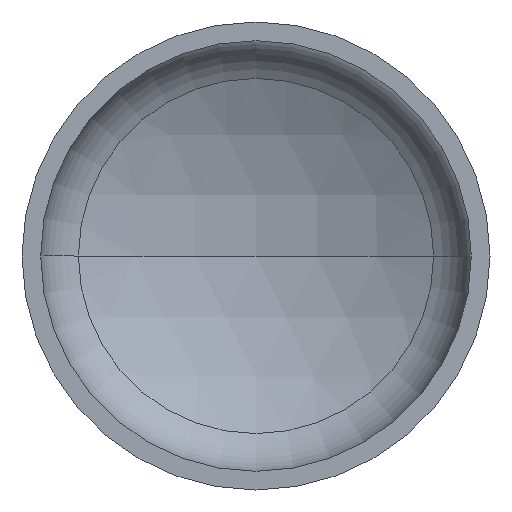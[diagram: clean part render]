
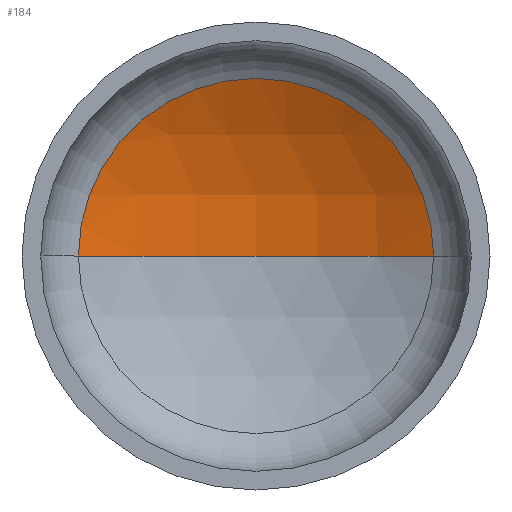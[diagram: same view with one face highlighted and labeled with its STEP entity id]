
A CAD part, front view. The second image highlights one B-rep face of the part: STEP entity #184.
In plain terms, the highlighted spherical face has radius 1200 mm.
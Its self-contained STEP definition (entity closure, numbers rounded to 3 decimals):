
#2 = VERTEX_POINT ( 'NONE', #231 ) ;
#4 = DIRECTION ( 'NONE',  ( -1., 0., 0. ) ) ;
#14 = CARTESIAN_POINT ( 'NONE',  ( 0., -733.991, 0. ) ) ;
#18 = AXIS2_PLACEMENT_3D ( 'NONE', #357, #360, #260 ) ;
#19 = AXIS2_PLACEMENT_3D ( 'NONE', #199, #156, #278 ) ;
#27 = EDGE_LOOP ( 'NONE', ( #142, #108, #182 ) ) ;
#45 = AXIS2_PLACEMENT_3D ( 'NONE', #14, #401, #4 ) ;
#60 = VERTEX_POINT ( 'NONE', #228 ) ;
#73 = CIRCLE ( 'NONE', #18, 1200. ) ;
#75 = DIRECTION ( 'NONE',  ( 1., 0., 0. ) ) ;
#90 = CARTESIAN_POINT ( 'NONE',  ( 0., -733.991, 0. ) ) ;
#108 = ORIENTED_EDGE ( 'NONE', *, *, #346, .T. ) ;
#123 = VERTEX_POINT ( 'NONE', #206 ) ;
#142 = ORIENTED_EDGE ( 'NONE', *, *, #388, .F. ) ;
#156 = DIRECTION ( 'NONE',  ( 0., -1., 0. ) ) ;
#181 = CIRCLE ( 'NONE', #19, 569.072 ) ;
#182 = ORIENTED_EDGE ( 'NONE', *, *, #345, .T. ) ;
#184 = ADVANCED_FACE ( 'NONE', ( #217 ), #395, .F. ) ;
#199 = CARTESIAN_POINT ( 'NONE',  ( 0., 322.493, 0. ) ) ;
#206 = CARTESIAN_POINT ( 'NONE',  ( 569.072, 322.493, 0. ) ) ;
#217 = FACE_OUTER_BOUND ( 'NONE', #27, .T. ) ;
#228 = CARTESIAN_POINT ( 'NONE',  ( 0., 466.009, 0. ) ) ;
#231 = CARTESIAN_POINT ( 'NONE',  ( -569.072, 322.493, 0. ) ) ;
#248 = AXIS2_PLACEMENT_3D ( 'NONE', #90, #265, #75 ) ;
#260 = DIRECTION ( 'NONE',  ( -1., 0., 0. ) ) ;
#265 = DIRECTION ( 'NONE',  ( 0., 0., 1. ) ) ;
#278 = DIRECTION ( 'NONE',  ( 1., 0., 0. ) ) ;
#345 = EDGE_CURVE ( 'NONE', #123, #2, #181, .T. ) ;
#346 = EDGE_CURVE ( 'NONE', #60, #123, #73, .T. ) ;
#353 = CIRCLE ( 'NONE', #248, 1200. ) ;
#357 = CARTESIAN_POINT ( 'NONE',  ( 0., -733.991, 0. ) ) ;
#360 = DIRECTION ( 'NONE',  ( 0., 0., -1. ) ) ;
#388 = EDGE_CURVE ( 'NONE', #60, #2, #353, .T. ) ;
#395 = SPHERICAL_SURFACE ( 'NONE', #45, 1200. ) ;
#401 = DIRECTION ( 'NONE',  ( 0., 0., -1. ) ) ;
